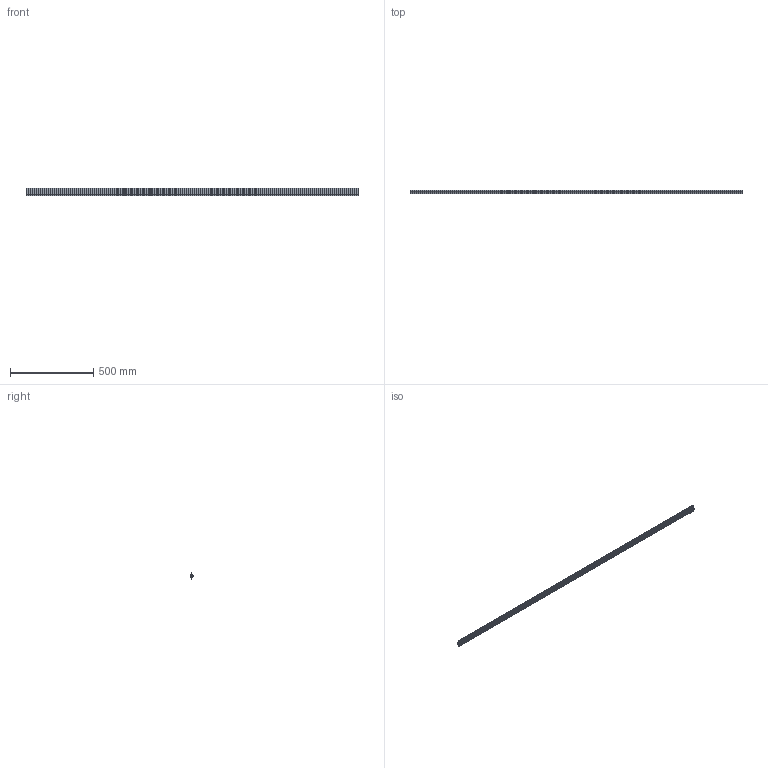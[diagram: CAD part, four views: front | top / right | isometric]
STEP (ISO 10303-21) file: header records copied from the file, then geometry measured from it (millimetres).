
FILE_DESCRIPTION((''),'2;1');
FILE_NAME('KC-0006-02-M7E-2000_ASM','2025-08-01T14:08:57',('YF-06'),(''),'CREO PARAMETRIC BY PTC INC, 2022073','CREO PARAMETRIC BY PTC INC, 2022073','');
FILE_SCHEMA(('CONFIG_CONTROL_DESIGN','SHAPE_APPEARANCE_LAYERS_GROUPS'));
Length unit declared in the file: millimetre
Products named in the file (4): KC-0006-0139; KC-0006-0137; KC-0006-0138; KC-0006-02-M7E-2000_ASM
Assembly tree (3 placements, depth 2):
  KC-0006-02-M7E-2000_ASM
    KC-0006-0139
    KC-0006-0137
    KC-0006-0138
Bounding box: 2000 x 20.7 x 44.5 mm (x, y, z)
Volume: 345326.4 mm3; surface area: 490758.7 mm2
Topology: 7 solids, 7 shells, 212 faces, 594 edges, 396 vertices
Faces by surface type: plane 146, cylinder 66
Entity records: 7144 total; most frequent: CARTESIAN_POINT 1209, ORIENTED_EDGE 1188, DIRECTION 1164, EDGE_CURVE 594, VECTOR 462, LINE 462, VERTEX_POINT 396, AXIS2_PLACEMENT_3D 351
